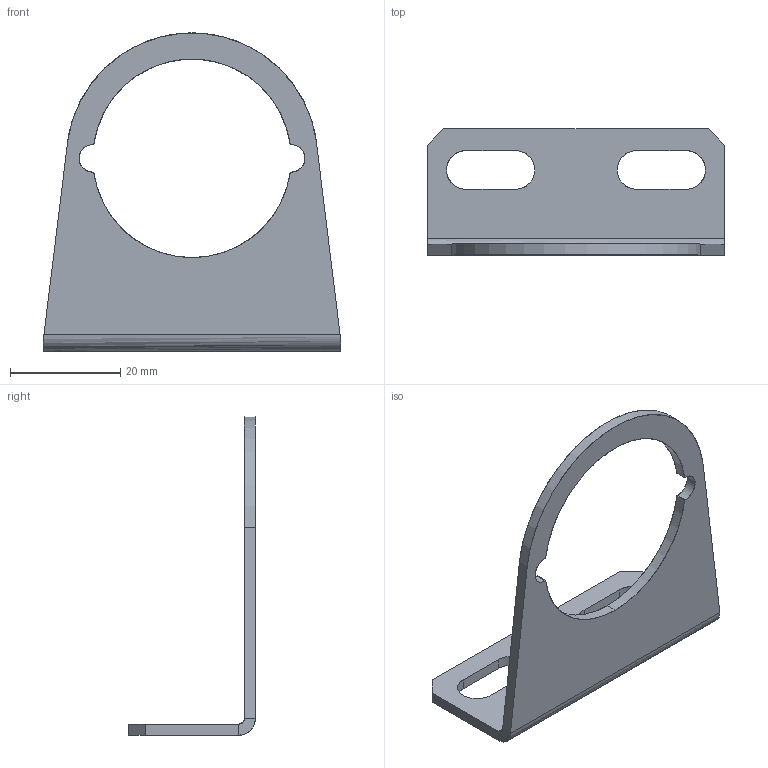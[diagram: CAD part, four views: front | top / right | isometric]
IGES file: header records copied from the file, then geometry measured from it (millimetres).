
Start section: SolidWorks IGES file using analytic representation for surfaces
Global section: file name: C:\Documents and Settings\Administrator\桌面\ZGURP-02MB.IGS,1; native system: 5HSolidWorks 2012; preprocessor: SolidWorks 2012; author: Administrator; date: 140703.162745; units: millimetre
Bounding box: 54 x 23 x 57.78 mm (x, y, z)
Surface area: 5682.3 mm2 (no closed solid volume)
Topology: 0 solids, 0 shells, 35 faces, 571 edges, 662 vertices
Faces by surface type: revolution 18, bspline 17
